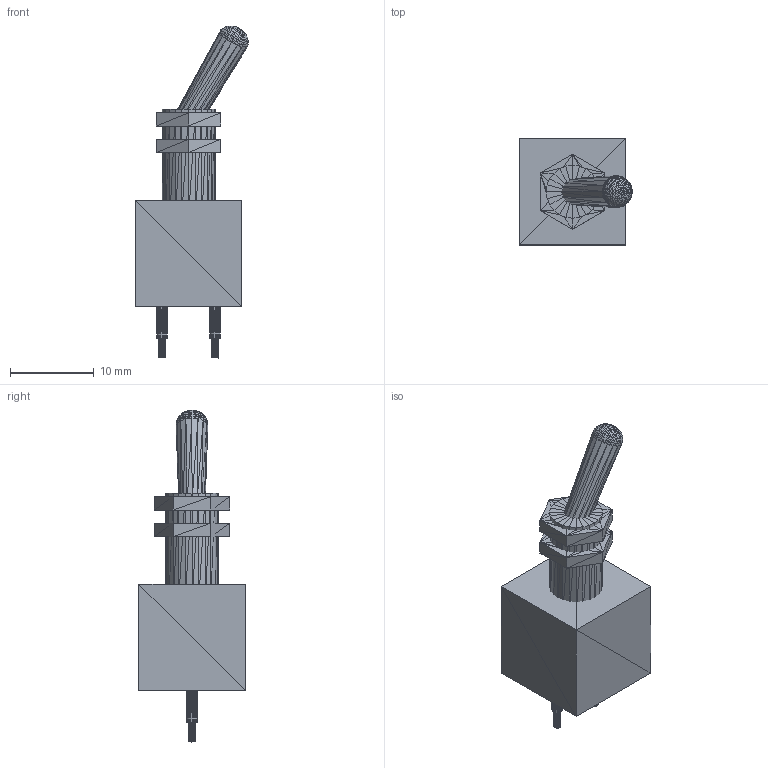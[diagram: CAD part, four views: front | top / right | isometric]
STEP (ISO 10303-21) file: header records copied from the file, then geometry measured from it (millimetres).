
FILE_DESCRIPTION(('HOOPS Exchange Step'),'2;1');
FILE_NAME('***.stp');
FILE_SCHEMA( ('AP242_MANAGED_MODEL_BASED_3D_ENGINEERING_MIM_LF {1 0 10303 442 1 1 4 }') );
Length unit declared in the file: inch
Products named in the file (10): SWSMSPST2_TOG_2; SWSMSPST2_TOG_3; SWSMSPST2_TOG_4; SWSMSPST2_TOG_5; SWSMSPST2_TOG_6; SWSMSPST2_TOG_7; SWSMSPST2_TOG_8; SWSMSPST2_TOG_9; SWSMSPST2_TOG_10; SWSMSPST2_TOG
Assembly tree (9 placements, depth 2):
  SWSMSPST2_TOG
    SWSMSPST2_TOG_2
    SWSMSPST2_TOG_3
    SWSMSPST2_TOG_4
    SWSMSPST2_TOG_5
    SWSMSPST2_TOG_6
    SWSMSPST2_TOG_7
    SWSMSPST2_TOG_8
    SWSMSPST2_TOG_9
    SWSMSPST2_TOG_10
Bounding box: 13.51 x 12.7 x 39.76 mm (x, y, z)
Volume: 2611.5 mm3; surface area: 1850.9 mm2
Topology: 10 solids, 12 shells, 1216 faces, 1808 edges, 608 vertices
Faces by surface type: plane 1216
Entity records: 24066 total; most frequent: DIRECTION 4280, CARTESIAN_POINT 3652, ORIENTED_EDGE 3648, VECTOR 1808, LINE 1808, EDGE_CURVE 1808, AXIS2_PLACEMENT_3D 1236, PLANE 1216
